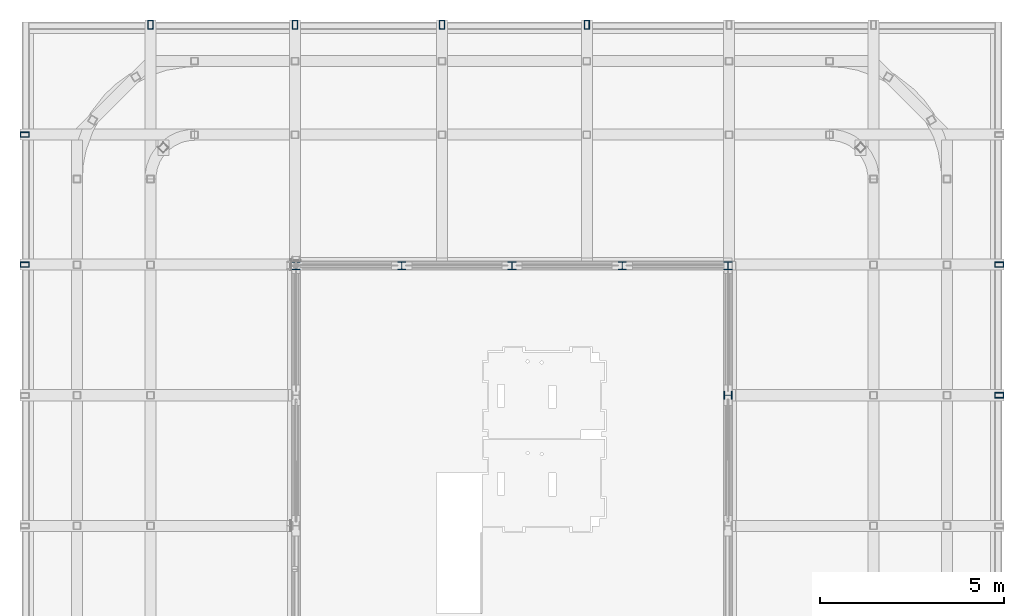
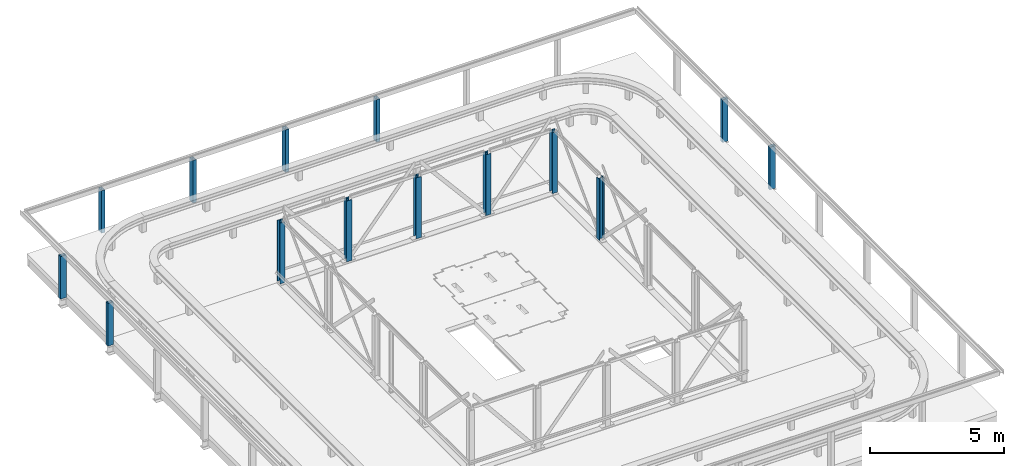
# One storey, part 4 of 27: 14 columns.
"""IFC2X3 building model written with IfcOpenShell, lengths in millimetres."""

import ifcopenshell
import ifcopenshell.guid

model = None  # the IFC model being written
_history = None  # IfcOwnerHistory: only IFC2X3 demands one
_inside = {}  # id of a spatial element -> (the spatial element, [elements in it])
_under = {}  # id of a project, library or spatial element -> (it, [spatial elements below it])
_declared = {}  # id of a project -> (the project, [libraries it declares])
_typed = {}  # id of a type object -> (the type object, [elements of that type])
_made_of = {}  # id of a material, layer set ... -> (it, [elements and type objects made of it])


def new_model(schema):
    """Start an empty IFC model of exactly this schema.

    Asked for "IFC4X3", IfcOpenShell would pick the latest addendum, in which some entities
    have other attributes; the version numbers below select the first issue.
    IFC2X3 requires an IfcOwnerHistory on every rooted entity: one is made here for all.
    """
    global model, _history
    if schema == "IFC4X3":
        model = ifcopenshell.file(schema_version=(4, 3, 0, 0))
    else:
        model = ifcopenshell.file(schema=schema)
    _inside.clear()
    _under.clear()
    _declared.clear()
    _typed.clear()
    _made_of.clear()
    _history = None
    if model.schema == "IFC2X3":
        org = make("IfcOrganization", Name="unknown")
        user = make(
            "IfcPersonAndOrganization",
            ThePerson=make("IfcPerson", FamilyName="unknown"),
            TheOrganization=org,
        )
        app = make(
            "IfcApplication",
            ApplicationDeveloper=org,
            Version="unknown",
            ApplicationFullName="unknown",
            ApplicationIdentifier="unknown",
        )
        _history = make(
            "IfcOwnerHistory",
            OwningUser=user,
            OwningApplication=app,
            ChangeAction="ADDED",
            CreationDate=0,
        )
    return model


def make(cls, **values):
    """One entity of the class cls with the attributes given. An attribute that is None is left unset."""
    return model.create_entity(
        cls, **{name: value for name, value in values.items() if value is not None}
    )


def entity(cls, *values):
    """Any entity or typed value of the class cls, its attributes in the order of the schema. None: left unset."""
    e = model.create_entity(cls)
    for i, value in enumerate(values):
        if value is not None:
            e[i] = value
    return e


def rooted(cls, **values):
    """An entity with a GlobalId (a new one), such as an element, a storey or a relation."""
    return make(cls, GlobalId=ifcopenshell.guid.new(), OwnerHistory=_history, **values)


def si_unit(unit_type, name, prefix=None):
    """IfcSIUnit, for example si_unit("LENGTHUNIT", "METRE", prefix="MILLI")."""
    return make("IfcSIUnit", UnitType=unit_type, Prefix=prefix, Name=name)


def converted_unit(unit_type, name, factor, base, dimensions=None, offset=None):
    """IfcConversionBasedUnit, such as the inch: factor (a typed value) times the base unit."""
    return make(
        "IfcConversionBasedUnit"
        if offset is None
        else "IfcConversionBasedUnitWithOffset",
        ConversionOffset=offset,
        Dimensions=None
        if dimensions is None
        else entity("IfcDimensionalExponents", *dimensions),
        UnitType=unit_type,
        Name=name,
        ConversionFactor=make(
            "IfcMeasureWithUnit", ValueComponent=factor, UnitComponent=base
        ),
    )


def derived_unit(unit_type, elements):
    """IfcDerivedUnit: a product of units, each with its exponent."""
    return make(
        "IfcDerivedUnit",
        Elements=[
            make("IfcDerivedUnitElement", Unit=unit, Exponent=power)
            for unit, power in elements
        ],
        UnitType=unit_type,
    )


def assignment(units):
    """IfcUnitAssignment: the units of a project."""
    return None if units is None else make("IfcUnitAssignment", Units=units)


def point(xyz):
    """IfcCartesianPoint."""
    return None if xyz is None else make("IfcCartesianPoint", Coordinates=xyz)


def direction(xyz):
    """IfcDirection."""
    return None if xyz is None else make("IfcDirection", DirectionRatios=xyz)


def frame(location, z_axis=None, x_axis=None):
    """IfcAxis2Placement3D, a coordinate frame: its origin and axes. An axis left out is left unset."""
    return make(
        "IfcAxis2Placement3D",
        Location=point(location),
        Axis=direction(z_axis),
        RefDirection=direction(x_axis),
    )


def frame_2d(location, x_axis=None):
    """IfcAxis2Placement2D, a coordinate frame in the plane: its origin and x axis."""
    return make(
        "IfcAxis2Placement2D", Location=point(location), RefDirection=direction(x_axis)
    )


def origin():
    """The frame at (0, 0, 0) with its axes left unset."""
    return frame((0.0, 0.0, 0.0))


def place(relative_to, where):
    """IfcLocalPlacement: puts the frame where relative to a parent placement (None: the world)."""
    return make(
        "IfcLocalPlacement", PlacementRelTo=relative_to, RelativePlacement=where
    )


def context(
    kind, dimensions, precision=None, world=None, true_north=None, identifier=None
):
    """IfcGeometricRepresentationContext, for example the 3D "Model" context."""
    return make(
        "IfcGeometricRepresentationContext",
        ContextIdentifier=identifier,
        ContextType=kind,
        CoordinateSpaceDimension=dimensions,
        Precision=precision,
        WorldCoordinateSystem=world,
        TrueNorth=true_north,
    )


def subcontext(parent, identifier, kind, view, scale=None):
    """IfcGeometricRepresentationSubContext, for example "Body" below "Model"."""
    return make(
        "IfcGeometricRepresentationSubContext",
        ContextIdentifier=identifier,
        ContextType=kind,
        ParentContext=parent,
        TargetScale=scale,
        TargetView=view,
    )


def project(units=None, contexts=None):
    """IfcProject with its units and contexts."""
    return rooted(
        "IfcProject",
        Name="project",
        RepresentationContexts=contexts,
        UnitsInContext=assignment(units),
    )


def spatial(cls, under=None, at=None, **own):
    """A site, building, storey or space (cls), placed at a placement, below another one or the project."""
    s = rooted(cls, ObjectPlacement=at, **own)
    if under is not None:
        _under.setdefault(under.id(), (under, []))[1].append(s)
    return s


def polyline(points):
    """IfcPolyline through the points."""
    return make("IfcPolyline", Points=[point(p) for p in points])


def circle_curve(where, radius):
    """IfcCircle in the frame where."""
    return make("IfcCircle", Position=where, Radius=radius)


def parameter(value):
    """IfcParameterValue: where a trimmed curve begins or ends, as a parameter of its basis curve."""
    return model.create_entity("IfcParameterValue", value)


def trimmed(basis, trim1, trim2, sense, master):
    """IfcTrimmedCurve: the piece of a basis curve between two trims."""
    return make(
        "IfcTrimmedCurve",
        BasisCurve=basis,
        Trim1=trim1,
        Trim2=trim2,
        SenseAgreement=sense,
        MasterRepresentation=master,
    )


def segment(curve, same_sense, transition):
    """IfcCompositeCurveSegment."""
    return make(
        "IfcCompositeCurveSegment",
        Transition=transition,
        SameSense=same_sense,
        ParentCurve=curve,
    )


def composite_curve(segments, self_intersect=None):
    """IfcCompositeCurve: segments joined end to end."""
    return make("IfcCompositeCurve", Segments=segments, SelfIntersect=self_intersect)


def profile(cls, at=None, kind="AREA", **sizes):
    """A parametric profile (cls). Its sizes go by their IFC names, for example OverallWidth=200.0."""
    return make(cls, ProfileType=kind, Position=at, **sizes)


def i_section(**sizes):
    """IfcIShapeProfileDef."""
    return profile("IfcIShapeProfileDef", **sizes)


def outline(outer, holes=None, kind="AREA"):
    """IfcArbitraryClosedProfileDef: a profile drawn as a closed curve; with holes, ...WithVoids."""
    if holes is None:
        return make("IfcArbitraryClosedProfileDef", ProfileType=kind, OuterCurve=outer)
    return make(
        "IfcArbitraryProfileDefWithVoids",
        ProfileType=kind,
        OuterCurve=outer,
        InnerCurves=holes,
    )


def extrude(swept, where, along, depth):
    """IfcExtrudedAreaSolid: the profile swept, set in the frame where, extruded along a direction by depth."""
    return make(
        "IfcExtrudedAreaSolid",
        SweptArea=swept,
        Position=where,
        ExtrudedDirection=direction(along),
        Depth=depth,
    )


def shape(context_of_items, identifier, shape_type, items):
    """IfcShapeRepresentation: the items that make up one representation, for example the "Body"."""
    return make(
        "IfcShapeRepresentation",
        ContextOfItems=context_of_items,
        RepresentationIdentifier=identifier,
        RepresentationType=shape_type,
        Items=items,
    )


def source(mapping_origin, context_of_items, identifier, shape_type, items):
    """IfcRepresentationMap: a shape defined once, which mapped items show again and again."""
    return make(
        "IfcRepresentationMap",
        MappingOrigin=mapping_origin,
        MappedRepresentation=shape(context_of_items, identifier, shape_type, items),
    )


def transform(
    local_origin,
    x_axis=None,
    y_axis=None,
    z_axis=None,
    scale=None,
    scale2=None,
    scale3=None,
    uniform=True,
):
    """IfcCartesianTransformationOperator3D, or its non-uniform kind. x_axis, y_axis, z_axis: its Axis1, 2, 3."""
    if uniform:
        return make(
            "IfcCartesianTransformationOperator3D",
            Axis1=direction(x_axis),
            Axis2=direction(y_axis),
            LocalOrigin=point(local_origin),
            Scale=scale,
            Axis3=direction(z_axis),
        )
    return make(
        "IfcCartesianTransformationOperator3DnonUniform",
        Axis1=direction(x_axis),
        Axis2=direction(y_axis),
        LocalOrigin=point(local_origin),
        Scale=scale,
        Axis3=direction(z_axis),
        Scale2=scale2,
        Scale3=scale3,
    )


def mapped(mapping_source, mapping_target):
    """IfcMappedItem: shows the shape of a source again, moved by a transform."""
    return make(
        "IfcMappedItem", MappingSource=mapping_source, MappingTarget=mapping_target
    )


def material(Name=None, Category=None):
    """IfcMaterial."""
    return make("IfcMaterial", Name=Name, Category=Category)


def made_of(thing, what):
    """Note that an element or type object is made of a material, layer set ...; save() writes the relation."""
    if what is not None:
        _made_of.setdefault(what.id(), (what, []))[1].append(thing)
    return thing


def type_object(cls, material=None, **own):
    """A type object (cls), such as IfcWallType, which elements share."""
    return made_of(rooted(cls, **own), material)


def type_shapes(of_type, sources):
    """Give a type object the sources (RepresentationMaps) that its elements show as mapped items."""
    of_type.RepresentationMaps = sources


def element(
    cls,
    number,
    at=None,
    inside=None,
    cuts=None,
    type_object=None,
    material=None,
    context=None,
    identifier="Body",
    shape_type=None,
    held_by="IfcProductDefinitionShape",
    body=None,
    shapes=None,
    **own,
):
    """One element of the class cls, such as IfcWall. Its Tag is "e" and its number.

    at: its placement. inside: the storey or other place that contains it. cuts: it is an
    opening in that element (IfcRelVoidsElement). A single representation is given by context,
    identifier, shape_type and body (its items); several are given by shapes. held_by: the class
    of the entity that holds the representations. save() writes the other relations.
    """
    e = rooted(cls, Tag="e%d" % number, ObjectPlacement=at, **own)
    if body is not None:
        shapes = [shape(context, identifier, shape_type, body)]
    if shapes is not None:
        e.Representation = make(held_by, Representations=shapes)
    if inside is not None:
        _inside.setdefault(inside.id(), (inside, []))[1].append(e)
    if cuts is not None:
        rooted(
            "IfcRelVoidsElement", RelatingBuildingElement=cuts, RelatedOpeningElement=e
        )
    if type_object is not None:
        _typed.setdefault(type_object.id(), (type_object, []))[1].append(e)
    return made_of(e, material)


def aggregate(whole, parts):
    """IfcRelAggregates: a whole, such as a stair, and the parts it consists of."""
    return rooted("IfcRelAggregates", RelatingObject=whole, RelatedObjects=parts)


def save(model, path):
    """Write the relations noted so far, then the file.

    IfcRelAggregates (storeys below a building ...), IfcRelContainedInSpatialStructure (elements
    in a storey), IfcRelDefinesByType, IfcRelAssociatesMaterial and IfcRelDeclares: one each for
    every whole, place, type object, material and project.
    """
    for whole, parts in _under.values():
        aggregate(whole, parts)
    for where, things in _inside.values():
        rooted(
            "IfcRelContainedInSpatialStructure",
            RelatedElements=things,
            RelatingStructure=where,
        )
    for kind, things in _typed.values():
        rooted("IfcRelDefinesByType", RelatedObjects=things, RelatingType=kind)
    for what, things in _made_of.values():
        rooted("IfcRelAssociatesMaterial", RelatedObjects=things, RelatingMaterial=what)
    for by, libraries in _declared.values():
        rooted("IfcRelDeclares", RelatingContext=by, RelatedDefinitions=libraries)
    model.write(path)


model = new_model("IFC2X3")

# Units and contexts
model_context = context("Model", 3, precision=0.01, world=origin(), true_north=direction((6.12303176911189e-17, 1.0)))
body_context = subcontext(model_context, "Body", "Model", "MODEL_VIEW")
ifc_project = project(units=[si_unit("LENGTHUNIT", "METRE", prefix="MILLI"), si_unit("AREAUNIT", "SQUARE_METRE"), si_unit("VOLUMEUNIT", "CUBIC_METRE"), converted_unit("PLANEANGLEUNIT", "DEGREE", entity("IfcRatioMeasure", 0.0174532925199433), si_unit("PLANEANGLEUNIT", "RADIAN"), dimensions=[0, 0, 0, 0, 0, 0, 0]), si_unit("MASSUNIT", "GRAM", prefix="KILO"), derived_unit("MASSDENSITYUNIT", [(si_unit("MASSUNIT", "GRAM", prefix="KILO"), 1), (si_unit("LENGTHUNIT", "METRE"), -3)]), si_unit("TIMEUNIT", "SECOND"), si_unit("FREQUENCYUNIT", "HERTZ"), si_unit("THERMODYNAMICTEMPERATUREUNIT", "DEGREE_CELSIUS"), derived_unit("THERMALTRANSMITTANCEUNIT", [(si_unit("MASSUNIT", "GRAM", prefix="KILO"), 1), (si_unit("THERMODYNAMICTEMPERATUREUNIT", "KELVIN"), -1), (si_unit("TIMEUNIT", "SECOND"), -3)]), derived_unit("VOLUMETRICFLOWRATEUNIT", [(si_unit("LENGTHUNIT", "METRE"), 3), (si_unit("TIMEUNIT", "SECOND"), -1)]), si_unit("ELECTRICCURRENTUNIT", "AMPERE"), si_unit("ELECTRICVOLTAGEUNIT", "VOLT"), si_unit("POWERUNIT", "WATT"), si_unit("FORCEUNIT", "NEWTON", prefix="KILO"), si_unit("ILLUMINANCEUNIT", "LUX"), si_unit("LUMINOUSFLUXUNIT", "LUMEN"), si_unit("LUMINOUSINTENSITYUNIT", "CANDELA"), derived_unit("USERDEFINED", [(si_unit("MASSUNIT", "GRAM", prefix="KILO"), -1), (si_unit("LENGTHUNIT", "METRE"), -2), (si_unit("TIMEUNIT", "SECOND"), 3), (si_unit("LUMINOUSFLUXUNIT", "LUMEN"), 1)]), derived_unit("LINEARVELOCITYUNIT", [(si_unit("LENGTHUNIT", "METRE"), 1), (si_unit("TIMEUNIT", "SECOND"), -1)]), si_unit("PRESSUREUNIT", "PASCAL"), derived_unit("USERDEFINED", [(si_unit("LENGTHUNIT", "METRE"), -2), (si_unit("MASSUNIT", "GRAM", prefix="KILO"), 1), (si_unit("TIMEUNIT", "SECOND"), -2)])], contexts=[model_context])

# Site, building, storey
site_placement = place(None, origin())
site = spatial("IfcSite", under=ifc_project, at=site_placement, Name="Default", CompositionType="ELEMENT")
building_placement = place(site_placement, origin())
building = spatial("IfcBuilding", under=site, at=building_placement, Name="niet gebruiken", CompositionType="ELEMENT")
storey_placement = place(building_placement, frame((0.0, 0.0, 187640.0)))
storey = spatial("IfcBuildingStorey", under=building, at=storey_placement, Name="59 negenenvijftigste verdieping", CompositionType="ELEMENT", Elevation=187640.0)

# Columns
ifc_material = material(Name="NLRS_h2_staal")
column_type_1 = type_object("IfcColumnType", Name="kolom HEB 220", PredefinedType="COLUMN", material=ifc_material)
shared_shape_1 = source(origin(), body_context, "Body", "SweptSolid", [
    extrude(i_section(OverallWidth=220.000000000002, OverallDepth=219.999999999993, WebThickness=9.49999999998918, FlangeThickness=16.0000000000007, FilletRadius=17.9999999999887, at=frame_2d((4.33431068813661e-12, -8.66862137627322e-12), x_axis=(0.0, 1.0))), frame((135875.0, 24575.0, 187635.0), z_axis=(0.0, 0.0, 1.0), x_axis=(0.0, -1.0, 0.0)), (0.0, 0.0, 1.0), 2775.00000000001),
])
type_shapes(column_type_1, [shared_shape_1])
column_1_placement = place(storey_placement, frame((0.0, 0.0, -187640.0)))
element("IfcColumn", 1, at=column_1_placement, inside=storey, type_object=column_type_1, material=ifc_material, Name="NLRS_28.11_SCO_TLB_stalen kolom HEB_gen:kolom HEB 220", ObjectType="kolom HEB 220", context=body_context, shape_type="MappedRepresentation", body=[
    mapped(shared_shape_1, transform((0.0, 0.0, 0.0), scale=1.0)),
])
column_type_2 = type_object("IfcColumnType", Name="kolom HEB 220", PredefinedType="COLUMN", material=ifc_material)
shared_shape_2 = source(origin(), body_context, "Body", "SweptSolid", [
    extrude(i_section(OverallWidth=220.000000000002, OverallDepth=219.999999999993, WebThickness=9.49999999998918, FlangeThickness=16.0000000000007, FilletRadius=17.9999999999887, at=frame_2d((-4.33431068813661e-12, -2.59916532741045e-11), x_axis=(0.0, 1.0))), frame((147625.0, 24575.0, 187635.0), z_axis=(0.0, 0.0, 1.0), x_axis=(0.0, -1.0, 0.0)), (0.0, 0.0, 1.0), 2775.00000000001),
])
type_shapes(column_type_2, [shared_shape_2])
column_2_placement = place(storey_placement, frame((0.0, 0.0, -187640.0)))
element("IfcColumn", 2, at=column_2_placement, inside=storey, type_object=column_type_2, material=ifc_material, Name="NLRS_28.11_SCO_TLB_stalen kolom HEB_gen:kolom HEB 220", ObjectType="kolom HEB 220", context=body_context, shape_type="MappedRepresentation", body=[
    mapped(shared_shape_2, transform((0.0, 0.0, 0.0), scale=1.0)),
])
column_type_3 = type_object("IfcColumnType", Name="kolom HEB 220", PredefinedType="COLUMN", material=ifc_material)
shared_shape_3 = source(origin(), body_context, "Body", "SweptSolid", [
    extrude(outline(composite_curve([segment(polyline([(94.0, -110.0), (110.0, -110.0)]), True, "CONTINUOUS"), segment(polyline([(110.0, -110.0), (110.0, 110.0)]), True, "CONTINUOUS"), segment(polyline([(110.0, 110.0), (94.0, 110.0)]), True, "CONTINUOUS"), segment(polyline([(94.0, 110.0), (94.0, 22.75)]), True, "CONTINUOUS"), segment(trimmed(circle_curve(frame_2d((76.0, 22.75), x_axis=(1.0, 0.0)), 17.9999999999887), [parameter(269.999999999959)], [parameter(0.0)], True, "PARAMETER"), False, "CONTINUOUS"), segment(polyline([(76.0, 4.75), (-76.0, 4.75)]), True, "CONTINUOUS"), segment(trimmed(circle_curve(frame_2d((-76.0, 22.75), x_axis=(0.0, -1.0)), 17.9999999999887), [parameter(269.999999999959)], [parameter(0.0)], True, "PARAMETER"), False, "CONTINUOUS"), segment(polyline([(-94.0, 22.75), (-94.0, 110.0)]), True, "CONTINUOUS"), segment(polyline([(-94.0, 110.0), (-110.0, 110.0)]), True, "CONTINUOUS"), segment(polyline([(-110.0, 110.0), (-110.0, -110.0)]), True, "CONTINUOUS"), segment(polyline([(-110.0, -110.0), (-94.0, -110.0)]), True, "CONTINUOUS"), segment(polyline([(-94.0, -110.0), (-94.0, -22.75)]), True, "CONTINUOUS"), segment(trimmed(circle_curve(frame_2d((-76.0, -22.75), x_axis=(-1.0, 0.0)), 17.9999999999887), [parameter(269.999999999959)], [parameter(0.0)], True, "PARAMETER"), False, "CONTINUOUS"), segment(polyline([(-76.0, -4.75), (76.0, -4.75)]), True, "CONTINUOUS"), segment(trimmed(circle_curve(frame_2d((76.0, -22.75), x_axis=(0.0, 1.0)), 17.9999999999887), [parameter(269.999999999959)], [parameter(0.0)], True, "PARAMETER"), False, "CONTINUOUS"), segment(polyline([(94.0, -22.75), (94.0, -110.0)]), True, "CONTINUOUS")], self_intersect=False)), frame((141750.0, 24575.0, 187635.0), z_axis=(0.0, 0.0, 1.0), x_axis=(0.0, -1.0, 0.0)), (0.0, 0.0, 1.0), 2775.00000000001),
])
type_shapes(column_type_3, [shared_shape_3])
column_3_placement = place(storey_placement, frame((0.0, 0.0, -187640.0)))
element("IfcColumn", 3, at=column_3_placement, inside=storey, type_object=column_type_3, material=ifc_material, Name="NLRS_28.11_SCO_TLB_stalen kolom HEB_gen:kolom HEB 220", ObjectType="kolom HEB 220", context=body_context, shape_type="MappedRepresentation", body=[
    mapped(shared_shape_3, transform((0.0, 0.0, 0.0), scale=1.0)),
])
column_type_4 = type_object("IfcColumnType", Name="kolom HEB 220", PredefinedType="COLUMN", material=ifc_material)
shared_shape_4 = source(origin(), body_context, "Body", "SweptSolid", [
    extrude(outline(composite_curve([segment(polyline([(94.0, -110.0), (110.0, -110.0)]), True, "CONTINUOUS"), segment(polyline([(110.0, -110.0), (110.0, 110.0)]), True, "CONTINUOUS"), segment(polyline([(110.0, 110.0), (94.0, 110.0)]), True, "CONTINUOUS"), segment(polyline([(94.0, 110.0), (94.0, 22.7499999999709)]), True, "CONTINUOUS"), segment(trimmed(circle_curve(frame_2d((76.0, 22.7499999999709), x_axis=(1.0, 0.0)), 17.9999999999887), [parameter(269.999999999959)], [parameter(0.0)], True, "PARAMETER"), False, "CONTINUOUS"), segment(polyline([(76.0, 4.7499999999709), (-76.0, 4.7499999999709)]), True, "CONTINUOUS"), segment(trimmed(circle_curve(frame_2d((-76.0, 22.7499999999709), x_axis=(0.0, -1.0)), 17.9999999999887), [parameter(269.999999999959)], [parameter(0.0)], True, "PARAMETER"), False, "CONTINUOUS"), segment(polyline([(-94.0, 22.7499999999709), (-94.0, 110.0)]), True, "CONTINUOUS"), segment(polyline([(-94.0, 110.0), (-110.0, 110.0)]), True, "CONTINUOUS"), segment(polyline([(-110.0, 110.0), (-110.0, -110.0)]), True, "CONTINUOUS"), segment(polyline([(-110.0, -110.0), (-94.0, -110.0)]), True, "CONTINUOUS"), segment(polyline([(-94.0, -110.0), (-94.0, -22.7500000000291)]), True, "CONTINUOUS"), segment(trimmed(circle_curve(frame_2d((-76.0, -22.7500000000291), x_axis=(-1.0, 0.0)), 17.9999999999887), [parameter(269.999999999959)], [parameter(0.0)], True, "PARAMETER"), False, "CONTINUOUS"), segment(polyline([(-76.0, -4.7500000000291), (76.0, -4.7500000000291)]), True, "CONTINUOUS"), segment(trimmed(circle_curve(frame_2d((76.0, -22.7500000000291), x_axis=(0.0, 1.0)), 17.9999999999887), [parameter(269.999999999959)], [parameter(0.0)], True, "PARAMETER"), False, "CONTINUOUS"), segment(polyline([(94.0, -22.7500000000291), (94.0, -110.0)]), True, "CONTINUOUS")], self_intersect=False)), frame((138750.0, 24575.0, 187635.0), z_axis=(0.0, 0.0, 1.0), x_axis=(0.0, -1.0, 0.0)), (0.0, 0.0, 1.0), 2775.00000000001),
])
type_shapes(column_type_4, [shared_shape_4])
column_4_placement = place(storey_placement, frame((0.0, 0.0, -187640.0)))
element("IfcColumn", 4, at=column_4_placement, inside=storey, type_object=column_type_4, material=ifc_material, Name="NLRS_28.11_SCO_TLB_stalen kolom HEB_gen:kolom HEB 220", ObjectType="kolom HEB 220", context=body_context, shape_type="MappedRepresentation", body=[
    mapped(shared_shape_4, transform((0.0, 0.0, 0.0), scale=1.0)),
])
column_type_5 = type_object("IfcColumnType", Name="kolom HEB 220", PredefinedType="COLUMN", material=ifc_material)
shared_shape_5 = source(origin(), body_context, "Body", "SweptSolid", [
    extrude(outline(composite_curve([segment(polyline([(94.0, -110.0), (110.0, -110.0)]), True, "CONTINUOUS"), segment(polyline([(110.0, -110.0), (110.0, 110.0)]), True, "CONTINUOUS"), segment(polyline([(110.0, 110.0), (94.0, 110.0)]), True, "CONTINUOUS"), segment(polyline([(94.0, 110.0), (94.0, 22.7499999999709)]), True, "CONTINUOUS"), segment(trimmed(circle_curve(frame_2d((76.0, 22.7499999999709), x_axis=(1.0, 0.0)), 17.9999999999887), [parameter(269.999999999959)], [parameter(0.0)], True, "PARAMETER"), False, "CONTINUOUS"), segment(polyline([(76.0, 4.7499999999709), (-76.0, 4.7499999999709)]), True, "CONTINUOUS"), segment(trimmed(circle_curve(frame_2d((-76.0, 22.7499999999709), x_axis=(0.0, -1.0)), 17.9999999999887), [parameter(269.999999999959)], [parameter(0.0)], True, "PARAMETER"), False, "CONTINUOUS"), segment(polyline([(-94.0, 22.7499999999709), (-94.0, 110.0)]), True, "CONTINUOUS"), segment(polyline([(-94.0, 110.0), (-110.0, 110.0)]), True, "CONTINUOUS"), segment(polyline([(-110.0, 110.0), (-110.0, -110.0)]), True, "CONTINUOUS"), segment(polyline([(-110.0, -110.0), (-94.0, -110.0)]), True, "CONTINUOUS"), segment(polyline([(-94.0, -110.0), (-94.0, -22.75)]), True, "CONTINUOUS"), segment(trimmed(circle_curve(frame_2d((-76.0, -22.75), x_axis=(-1.0, 0.0)), 17.9999999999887), [parameter(269.999999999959)], [parameter(0.0)], True, "PARAMETER"), False, "CONTINUOUS"), segment(polyline([(-76.0, -4.7500000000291), (76.0, -4.7500000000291)]), True, "CONTINUOUS"), segment(trimmed(circle_curve(frame_2d((76.0, -22.75), x_axis=(0.0, 1.0)), 17.9999999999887), [parameter(269.999999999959)], [parameter(0.0)], True, "PARAMETER"), False, "CONTINUOUS"), segment(polyline([(94.0, -22.75), (94.0, -110.0)]), True, "CONTINUOUS")], self_intersect=False)), frame((144750.0, 24575.0, 187635.0), z_axis=(0.0, 0.0, 1.0), x_axis=(0.0, -1.0, 0.0)), (0.0, 0.0, 1.0), 2775.00000000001),
])
type_shapes(column_type_5, [shared_shape_5])
column_5_placement = place(storey_placement, frame((0.0, 0.0, -187640.0)))
element("IfcColumn", 5, at=column_5_placement, inside=storey, type_object=column_type_5, material=ifc_material, Name="NLRS_28.11_SCO_TLB_stalen kolom HEB_gen:kolom HEB 220", ObjectType="kolom HEB 220", context=body_context, shape_type="MappedRepresentation", body=[
    mapped(shared_shape_5, transform((0.0, 0.0, 0.0), scale=1.0)),
])
column_type_6 = type_object("IfcColumnType", Name="kolom HEB 220", PredefinedType="COLUMN", material=ifc_material)
shared_shape_6 = source(origin(), body_context, "Body", "SweptSolid", [
    extrude(i_section(OverallWidth=219.999999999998, OverallDepth=219.999999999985, WebThickness=9.50000000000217, FlangeThickness=15.9999999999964, FilletRadius=17.9999999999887, at=frame_2d((0.0, -1.73301373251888e-11), x_axis=(1.0, 0.0))), frame((147625.0, 21050.0, 187635.0), z_axis=(0.0, 0.0, 1.0), x_axis=(0.0, -1.0, 0.0)), (0.0, 0.0, 1.0), 2775.00000000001),
])
type_shapes(column_type_6, [shared_shape_6])
column_6_placement = place(storey_placement, frame((0.0, 0.0, -187640.0)))
element("IfcColumn", 6, at=column_6_placement, inside=storey, type_object=column_type_6, material=ifc_material, Name="NLRS_28.11_SCO_TLB_stalen kolom HEB_gen:kolom HEB 220", ObjectType="kolom HEB 220", context=body_context, shape_type="MappedRepresentation", body=[
    mapped(shared_shape_6, transform((0.0, 0.0, 0.0), scale=1.0)),
])
column_type_7 = type_object("IfcColumnType", Name="kolom buisprofiel rechthoekig RHSH_250x150x16", PredefinedType="COLUMN", material=ifc_material)
shared_shape_7 = source(origin(), body_context, "Body", "SweptSolid", [
    extrude(outline(polyline([(-125.0, -75.0), (125.0, -75.0), (125.0, 75.0), (-125.0, 75.0), (-125.0, -75.0)]), holes=[composite_curve([segment(trimmed(circle_curve(frame_2d((-96.5000000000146, -46.5000000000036), x_axis=(0.0, 1.0)), 12.5), [parameter(90.0)], [parameter(180.0)], True, "PARAMETER"), False, "CONTINUOUS"), segment(polyline([(-109.0, -46.4999999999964), (-109.0, 46.5)]), True, "CONTINUOUS"), segment(trimmed(circle_curve(frame_2d((-96.5000000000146, 46.5), x_axis=(0.0, 1.0)), 12.5), [parameter(360.0)], [parameter(89.9999999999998)], True, "PARAMETER"), False, "CONTINUOUS"), segment(polyline([(-96.5, 59.0), (96.4999999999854, 59.0)]), True, "CONTINUOUS"), segment(trimmed(circle_curve(frame_2d((96.4999999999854, 46.5), x_axis=(0.0, 1.0)), 12.5), [parameter(270.0)], [parameter(360.0)], True, "PARAMETER"), False, "CONTINUOUS"), segment(polyline([(109.0, 46.5), (109.0, -46.4999999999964)]), True, "CONTINUOUS"), segment(trimmed(circle_curve(frame_2d((96.4999999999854, -46.5000000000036), x_axis=(0.0, 1.0)), 12.5), [parameter(180.0)], [parameter(270.0)], True, "PARAMETER"), False, "CONTINUOUS"), segment(polyline([(96.4999999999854, -59.0), (-96.5, -59.0)]), True, "CONTINUOUS")], self_intersect=False)]), frame((128495.0, 28135.0, 187350.0)), (0.0, 0.0, 1.0), 1940.00000000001),
])
type_shapes(column_type_7, [shared_shape_7])
column_7_placement = place(storey_placement, frame((0.0, 0.0, -187640.0)))
element("IfcColumn", 7, at=column_7_placement, inside=storey, type_object=column_type_7, material=ifc_material, Name="NLRS_28.11_SCO_TLB_stalen kolom buisprofiel rechthoekig_gen:kolom buisprofiel rechthoekig RHSH_250x150x16", ObjectType="kolom buisprofiel rechthoekig RHSH_250x150x16", context=body_context, shape_type="MappedRepresentation", body=[
    mapped(shared_shape_7, transform((0.0, 0.0, 0.0), scale=1.0)),
])
column_type_8 = type_object("IfcColumnType", Name="kolom buisprofiel rechthoekig RHSH_250x150x16", PredefinedType="COLUMN", material=ifc_material)
shared_shape_8 = source(origin(), body_context, "Body", "SweptSolid", [
    extrude(outline(polyline([(-125.0, -75.0), (125.0, -75.0), (125.0, 75.0), (-125.0, 75.0), (-125.0, -75.0)]), holes=[composite_curve([segment(trimmed(circle_curve(frame_2d((-96.5000000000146, -46.5000000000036), x_axis=(0.0, 1.0)), 12.5), [parameter(90.0)], [parameter(180.0)], True, "PARAMETER"), False, "CONTINUOUS"), segment(polyline([(-109.0, -46.5), (-109.0, 46.4999999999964)]), True, "CONTINUOUS"), segment(trimmed(circle_curve(frame_2d((-96.5000000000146, 46.4999999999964), x_axis=(0.0, 1.0)), 12.5), [parameter(360.0)], [parameter(89.9999999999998)], True, "PARAMETER"), False, "CONTINUOUS"), segment(polyline([(-96.5, 59.0), (96.4999999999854, 59.0)]), True, "CONTINUOUS"), segment(trimmed(circle_curve(frame_2d((96.4999999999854, 46.4999999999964), x_axis=(0.0, 1.0)), 12.5), [parameter(270.0)], [parameter(360.0)], True, "PARAMETER"), False, "CONTINUOUS"), segment(polyline([(109.0, 46.4999999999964), (109.0, -46.5)]), True, "CONTINUOUS"), segment(trimmed(circle_curve(frame_2d((96.4999999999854, -46.5000000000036), x_axis=(0.0, 1.0)), 12.5), [parameter(180.0)], [parameter(270.0)], True, "PARAMETER"), False, "CONTINUOUS"), segment(polyline([(96.4999999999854, -59.0), (-96.5, -59.0)]), True, "CONTINUOUS")], self_intersect=False)]), frame((128495.0, 24600.0, 187350.0)), (0.0, 0.0, 1.0), 1940.00000000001),
])
type_shapes(column_type_8, [shared_shape_8])
column_8_placement = place(storey_placement, frame((0.0, 0.0, -187640.0)))
element("IfcColumn", 8, at=column_8_placement, inside=storey, type_object=column_type_8, material=ifc_material, Name="NLRS_28.11_SCO_TLB_stalen kolom buisprofiel rechthoekig_gen:kolom buisprofiel rechthoekig RHSH_250x150x16", ObjectType="kolom buisprofiel rechthoekig RHSH_250x150x16", context=body_context, shape_type="MappedRepresentation", body=[
    mapped(shared_shape_8, transform((0.0, 0.0, 0.0), scale=1.0)),
])
column_type_9 = type_object("IfcColumnType", Name="kolom buisprofiel rechthoekig RHSH_250x150x16", PredefinedType="COLUMN", material=ifc_material)
shared_shape_9 = source(origin(), body_context, "Body", "SweptSolid", [
    extrude(outline(polyline([(-125.0, -75.0), (125.0, -75.0), (125.0, 75.0), (-125.0, 75.0), (-125.0, -75.0)]), holes=[composite_curve([segment(trimmed(circle_curve(frame_2d((-96.5, -46.5000000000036), x_axis=(0.0, 1.0)), 12.5), [parameter(90.0)], [parameter(180.0)], True, "PARAMETER"), False, "CONTINUOUS"), segment(polyline([(-109.0, -46.4999999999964), (-109.0, 46.5)]), True, "CONTINUOUS"), segment(trimmed(circle_curve(frame_2d((-96.5, 46.5), x_axis=(0.0, 1.0)), 12.5), [parameter(360.0)], [parameter(89.9999999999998)], True, "PARAMETER"), False, "CONTINUOUS"), segment(polyline([(-96.5, 59.0), (96.5, 59.0)]), True, "CONTINUOUS"), segment(trimmed(circle_curve(frame_2d((96.5, 46.5), x_axis=(0.0, 1.0)), 12.5), [parameter(270.0)], [parameter(360.0)], True, "PARAMETER"), False, "CONTINUOUS"), segment(polyline([(109.0, 46.5), (109.0, -46.4999999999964)]), True, "CONTINUOUS"), segment(trimmed(circle_curve(frame_2d((96.5, -46.5000000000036), x_axis=(0.0, 1.0)), 12.5), [parameter(180.0)], [parameter(270.0)], True, "PARAMETER"), False, "CONTINUOUS"), segment(polyline([(96.5, -59.0), (-96.5, -59.0)]), True, "CONTINUOUS")], self_intersect=False)]), frame((155005.0, 24600.0, 187350.0)), (0.0, 0.0, 1.0), 1940.00000000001),
])
type_shapes(column_type_9, [shared_shape_9])
column_9_placement = place(storey_placement, frame((0.0, 0.0, -187640.0)))
element("IfcColumn", 9, at=column_9_placement, inside=storey, type_object=column_type_9, material=ifc_material, Name="NLRS_28.11_SCO_TLB_stalen kolom buisprofiel rechthoekig_gen:kolom buisprofiel rechthoekig RHSH_250x150x16", ObjectType="kolom buisprofiel rechthoekig RHSH_250x150x16", context=body_context, shape_type="MappedRepresentation", body=[
    mapped(shared_shape_9, transform((0.0, 0.0, 0.0), scale=1.0)),
])
column_type_10 = type_object("IfcColumnType", Name="kolom buisprofiel rechthoekig RHSH_250x150x16", PredefinedType="COLUMN", material=ifc_material)
shared_shape_10 = source(origin(), body_context, "Body", "SweptSolid", [
    extrude(outline(polyline([(-125.0, -75.0), (125.0, -75.0), (125.0, 75.0), (-125.0, 75.0), (-125.0, -75.0)]), holes=[composite_curve([segment(trimmed(circle_curve(frame_2d((-96.5, -46.5000000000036), x_axis=(0.0, 1.0)), 12.5), [parameter(90.0)], [parameter(180.0)], True, "PARAMETER"), False, "CONTINUOUS"), segment(polyline([(-109.0, -46.4999999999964), (-109.0, 46.5)]), True, "CONTINUOUS"), segment(trimmed(circle_curve(frame_2d((-96.5, 46.5), x_axis=(0.0, 1.0)), 12.5), [parameter(360.0)], [parameter(89.9999999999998)], True, "PARAMETER"), False, "CONTINUOUS"), segment(polyline([(-96.5, 59.0), (96.5, 59.0)]), True, "CONTINUOUS"), segment(trimmed(circle_curve(frame_2d((96.5, 46.5), x_axis=(0.0, 1.0)), 12.5), [parameter(270.0)], [parameter(360.0)], True, "PARAMETER"), False, "CONTINUOUS"), segment(polyline([(109.0, 46.5), (109.0, -46.4999999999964)]), True, "CONTINUOUS"), segment(trimmed(circle_curve(frame_2d((96.5, -46.5000000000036), x_axis=(0.0, 1.0)), 12.5), [parameter(180.0)], [parameter(270.0)], True, "PARAMETER"), False, "CONTINUOUS"), segment(polyline([(96.5, -59.0), (-96.5, -59.0)]), True, "CONTINUOUS")], self_intersect=False)]), frame((155005.0, 21050.0, 187350.0)), (0.0, 0.0, 1.0), 1940.00000000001),
])
type_shapes(column_type_10, [shared_shape_10])
column_10_placement = place(storey_placement, frame((0.0, 0.0, -187640.0)))
element("IfcColumn", 10, at=column_10_placement, inside=storey, type_object=column_type_10, material=ifc_material, Name="NLRS_28.11_SCO_TLB_stalen kolom buisprofiel rechthoekig_gen:kolom buisprofiel rechthoekig RHSH_250x150x16", ObjectType="kolom buisprofiel rechthoekig RHSH_250x150x16", context=body_context, shape_type="MappedRepresentation", body=[
    mapped(shared_shape_10, transform((0.0, 0.0, 0.0), scale=1.0)),
])
column_type_11 = type_object("IfcColumnType", Name="kolom buisprofiel rechthoekig RHSH_250x150x16", PredefinedType="COLUMN", material=ifc_material)
shared_shape_11 = source(origin(), body_context, "Body", "SweptSolid", [
    extrude(outline(polyline([(-125.0, -75.0), (125.0, -75.0), (125.0, 75.0), (-125.0, 75.0), (-125.0, -75.0)]), holes=[composite_curve([segment(trimmed(circle_curve(frame_2d((-96.5000000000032, -46.4999999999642), x_axis=(0.0, 1.0)), 12.5), [parameter(90.0)], [parameter(180.0)], True, "PARAMETER"), False, "CONTINUOUS"), segment(polyline([(-109.0, -46.4999999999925), (-109.0, 46.5000000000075)]), True, "CONTINUOUS"), segment(trimmed(circle_curve(frame_2d((-96.5000000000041, 46.5000000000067), x_axis=(0.0, 1.0)), 12.5), [parameter(360.0)], [parameter(89.9999999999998)], True, "PARAMETER"), False, "CONTINUOUS"), segment(polyline([(-96.4999999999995, 59.0), (96.5000000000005, 59.0)]), True, "CONTINUOUS"), segment(trimmed(circle_curve(frame_2d((96.499999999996, 46.4999999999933), x_axis=(0.0, 1.0)), 12.5), [parameter(270.0)], [parameter(360.0)], True, "PARAMETER"), False, "CONTINUOUS"), segment(polyline([(109.0, 46.4999999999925), (109.0, -46.4999999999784)]), True, "CONTINUOUS"), segment(trimmed(circle_curve(frame_2d((96.4999999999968, -46.4999999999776), x_axis=(0.0, 1.0)), 12.5), [parameter(180.0)], [parameter(270.0)], True, "PARAMETER"), False, "CONTINUOUS"), segment(polyline([(96.4999999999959, -59.0), (-96.5000000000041, -59.0)]), True, "CONTINUOUS")], self_intersect=False)]), frame((131916.666666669, 31130.0, 187350.0), z_axis=(0.0, 0.0, 1.0), x_axis=(0.0, 1.0, 0.0)), (0.0, 0.0, 1.0), 1940.00000000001),
])
type_shapes(column_type_11, [shared_shape_11])
column_11_placement = place(storey_placement, frame((0.0, 0.0, -187640.0)))
element("IfcColumn", 11, at=column_11_placement, inside=storey, type_object=column_type_11, material=ifc_material, Name="NLRS_28.11_SCO_TLB_stalen kolom buisprofiel rechthoekig_gen:kolom buisprofiel rechthoekig RHSH_250x150x16", ObjectType="kolom buisprofiel rechthoekig RHSH_250x150x16", context=body_context, shape_type="MappedRepresentation", body=[
    mapped(shared_shape_11, transform((0.0, 0.0, 0.0), scale=1.0)),
])
column_type_12 = type_object("IfcColumnType", Name="kolom buisprofiel rechthoekig RHSH_250x150x16", PredefinedType="COLUMN", material=ifc_material)
shared_shape_12 = source(origin(), body_context, "Body", "SweptSolid", [
    extrude(outline(polyline([(-125.0, -75.0), (125.0, -75.0), (125.0, 75.0), (-125.0, 75.0), (-125.0, -75.0)]), holes=[composite_curve([segment(trimmed(circle_curve(frame_2d((-96.5000000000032, -46.4999999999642), x_axis=(0.0, 1.0)), 12.5), [parameter(90.0)], [parameter(180.0)], True, "PARAMETER"), False, "CONTINUOUS"), segment(polyline([(-109.0, -46.4999999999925), (-109.0, 46.5000000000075)]), True, "CONTINUOUS"), segment(trimmed(circle_curve(frame_2d((-96.5000000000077, 46.5000000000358), x_axis=(0.0, 1.0)), 12.5), [parameter(360.0)], [parameter(89.9999999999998)], True, "PARAMETER"), False, "CONTINUOUS"), segment(polyline([(-96.4999999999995, 59.0), (96.4999999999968, 59.0)]), True, "CONTINUOUS"), segment(trimmed(circle_curve(frame_2d((96.4999999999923, 46.5000000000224), x_axis=(0.0, 1.0)), 12.5), [parameter(270.0)], [parameter(360.0)], True, "PARAMETER"), False, "CONTINUOUS"), segment(polyline([(109.0, 46.5000000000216), (109.0, -46.4999999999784)]), True, "CONTINUOUS"), segment(trimmed(circle_curve(frame_2d((96.4999999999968, -46.4999999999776), x_axis=(0.0, 1.0)), 12.5), [parameter(180.0)], [parameter(270.0)], True, "PARAMETER"), False, "CONTINUOUS"), segment(polyline([(96.4999999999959, -59.0), (-96.5000000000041, -59.0)]), True, "CONTINUOUS")], self_intersect=False)]), frame((135850.0, 31130.0, 187350.0), z_axis=(0.0, 0.0, 1.0), x_axis=(0.0, 1.0, 0.0)), (0.0, 0.0, 1.0), 1940.00000000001),
])
type_shapes(column_type_12, [shared_shape_12])
column_12_placement = place(storey_placement, frame((0.0, 0.0, -187640.0)))
element("IfcColumn", 12, at=column_12_placement, inside=storey, type_object=column_type_12, material=ifc_material, Name="NLRS_28.11_SCO_TLB_stalen kolom buisprofiel rechthoekig_gen:kolom buisprofiel rechthoekig RHSH_250x150x16", ObjectType="kolom buisprofiel rechthoekig RHSH_250x150x16", context=body_context, shape_type="MappedRepresentation", body=[
    mapped(shared_shape_12, transform((0.0, 0.0, 0.0), scale=1.0)),
])
column_type_13 = type_object("IfcColumnType", Name="kolom buisprofiel rechthoekig RHSH_250x150x16", PredefinedType="COLUMN", material=ifc_material)
shared_shape_13 = source(origin(), body_context, "Body", "SweptSolid", [
    extrude(outline(polyline([(-125.0, -75.0), (125.0, -75.0), (125.0, 75.0), (-125.0, 75.0), (-125.0, -75.0)]), holes=[composite_curve([segment(trimmed(circle_curve(frame_2d((-96.4999999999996, -46.4999999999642), x_axis=(0.0, 1.0)), 12.5), [parameter(90.0)], [parameter(180.0)], True, "PARAMETER"), False, "CONTINUOUS"), segment(polyline([(-109.0, -46.4999999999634), (-109.0, 46.5000000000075)]), True, "CONTINUOUS"), segment(trimmed(circle_curve(frame_2d((-96.5000000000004, 46.5000000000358), x_axis=(0.0, 1.0)), 12.5), [parameter(360.0)], [parameter(89.9999999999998)], True, "PARAMETER"), False, "CONTINUOUS"), segment(polyline([(-96.4999999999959, 59.0), (96.5000000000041, 59.0)]), True, "CONTINUOUS"), segment(trimmed(circle_curve(frame_2d((96.4999999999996, 46.5000000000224), x_axis=(0.0, 1.0)), 12.5), [parameter(270.0)], [parameter(360.0)], True, "PARAMETER"), False, "CONTINUOUS"), segment(polyline([(109.0, 46.5000000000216), (109.0, -46.4999999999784)]), True, "CONTINUOUS"), segment(trimmed(circle_curve(frame_2d((96.5000000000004, -46.4999999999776), x_axis=(0.0, 1.0)), 12.5), [parameter(180.0)], [parameter(270.0)], True, "PARAMETER"), False, "CONTINUOUS"), segment(polyline([(96.4999999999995, -59.0), (-96.5000000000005, -59.0)]), True, "CONTINUOUS")], self_intersect=False)]), frame((139850.0, 31130.0, 187350.0), z_axis=(0.0, 0.0, 1.0), x_axis=(0.0, 1.0, 0.0)), (0.0, 0.0, 1.0), 1940.00000000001),
])
type_shapes(column_type_13, [shared_shape_13])
column_13_placement = place(storey_placement, frame((0.0, 0.0, -187640.0)))
element("IfcColumn", 13, at=column_13_placement, inside=storey, type_object=column_type_13, material=ifc_material, Name="NLRS_28.11_SCO_TLB_stalen kolom buisprofiel rechthoekig_gen:kolom buisprofiel rechthoekig RHSH_250x150x16", ObjectType="kolom buisprofiel rechthoekig RHSH_250x150x16", context=body_context, shape_type="MappedRepresentation", body=[
    mapped(shared_shape_13, transform((0.0, 0.0, 0.0), scale=1.0)),
])
column_type_14 = type_object("IfcColumnType", Name="kolom buisprofiel rechthoekig RHSH_250x150x16", PredefinedType="COLUMN", material=ifc_material)
shared_shape_14 = source(origin(), body_context, "Body", "SweptSolid", [
    extrude(outline(polyline([(-125.0, -75.0), (125.0, -75.0), (125.0, 75.0), (-125.0, 75.0), (-125.0, -75.0)]), holes=[composite_curve([segment(trimmed(circle_curve(frame_2d((-96.4999999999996, -46.4999999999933), x_axis=(0.0, 1.0)), 12.5), [parameter(90.0)], [parameter(180.0)], True, "PARAMETER"), False, "CONTINUOUS"), segment(polyline([(-109.0, -46.4999999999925), (-109.0, 46.4999999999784)]), True, "CONTINUOUS"), segment(trimmed(circle_curve(frame_2d((-96.5000000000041, 46.5000000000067), x_axis=(0.0, 1.0)), 12.5), [parameter(360.0)], [parameter(89.9999999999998)], True, "PARAMETER"), False, "CONTINUOUS"), segment(polyline([(-96.4999999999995, 59.0), (96.5000000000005, 59.0)]), True, "CONTINUOUS"), segment(trimmed(circle_curve(frame_2d((96.499999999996, 46.4999999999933), x_axis=(0.0, 1.0)), 12.5), [parameter(270.0)], [parameter(360.0)], True, "PARAMETER"), False, "CONTINUOUS"), segment(polyline([(109.0, 46.4999999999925), (109.0, -46.5000000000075)]), True, "CONTINUOUS"), segment(trimmed(circle_curve(frame_2d((96.4999999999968, -46.5000000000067), x_axis=(0.0, 1.0)), 12.5), [parameter(180.0)], [parameter(270.0)], True, "PARAMETER"), False, "CONTINUOUS"), segment(polyline([(96.4999999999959, -59.0), (-96.5000000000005, -59.0)]), True, "CONTINUOUS")], self_intersect=False)]), frame((143783.333333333, 31130.0, 187350.0), z_axis=(0.0, 0.0, 1.0), x_axis=(0.0, 1.0, 0.0)), (0.0, 0.0, 1.0), 1940.00000000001),
])
type_shapes(column_type_14, [shared_shape_14])
column_14_placement = place(storey_placement, frame((0.0, 0.0, -187640.0)))
element("IfcColumn", 14, at=column_14_placement, inside=storey, type_object=column_type_14, material=ifc_material, Name="NLRS_28.11_SCO_TLB_stalen kolom buisprofiel rechthoekig_gen:kolom buisprofiel rechthoekig RHSH_250x150x16", ObjectType="kolom buisprofiel rechthoekig RHSH_250x150x16", context=body_context, shape_type="MappedRepresentation", body=[
    mapped(shared_shape_14, transform((0.0, 0.0, 0.0), scale=1.0)),
])

save(model, "model.ifc")
